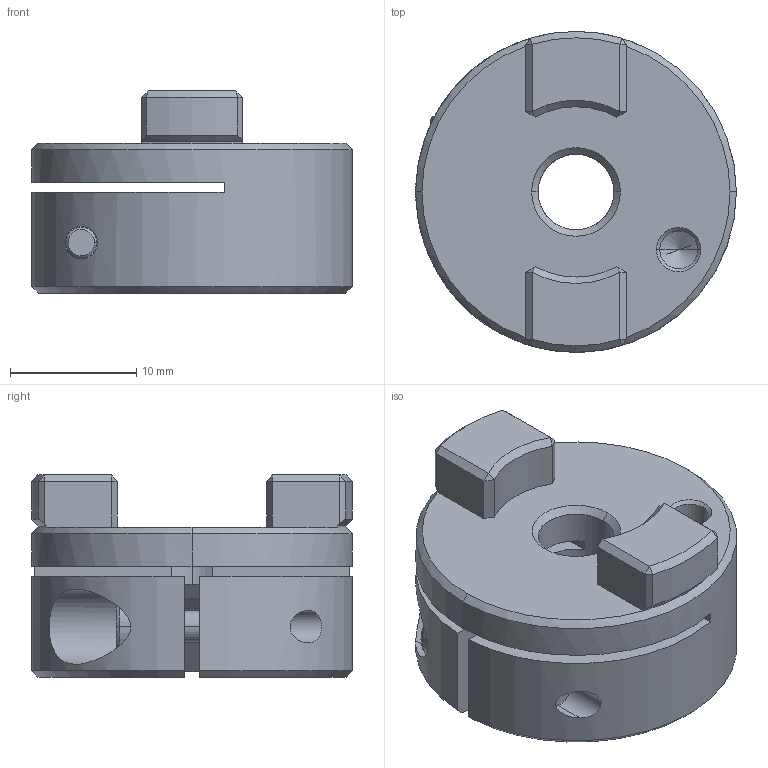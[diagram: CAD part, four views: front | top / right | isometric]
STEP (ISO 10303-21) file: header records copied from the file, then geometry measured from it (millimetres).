
FILE_DESCRIPTION((''),'2;1');
FILE_NAME('MOCT25-6-A','2016-09-09T',('SYSTEM'),(''),'PRO/ENGINEER BY PARAMETRIC TECHNOLOGY CORPORATION, 2015110','PRO/ENGINEER BY PARAMETRIC TECHNOLOGY CORPORATION, 2015110','');
FILE_SCHEMA(('AUTOMOTIVE_DESIGN { 1 0 10303 214 1 1 1 1 }'));
Length unit declared in the file: inch
Products named in the file (1): MOCT25-6-A
Bounding box: 25.4 x 25.4 x 16 mm (x, y, z)
Volume: 5477.3 mm3; surface area: 3436.2 mm2
Topology: 1 solids, 1 shells, 94 faces, 223 edges, 134 vertices
Faces by surface type: plane 49, cylinder 23, cone 22
Entity records: 3502 total; most frequent: CARTESIAN_POINT 617, DIRECTION 455, ORIENTED_EDGE 442, EDGE_CURVE 221, AXIS2_PLACEMENT_3D 164, VERTEX_POINT 134, VECTOR 127, LINE 127
